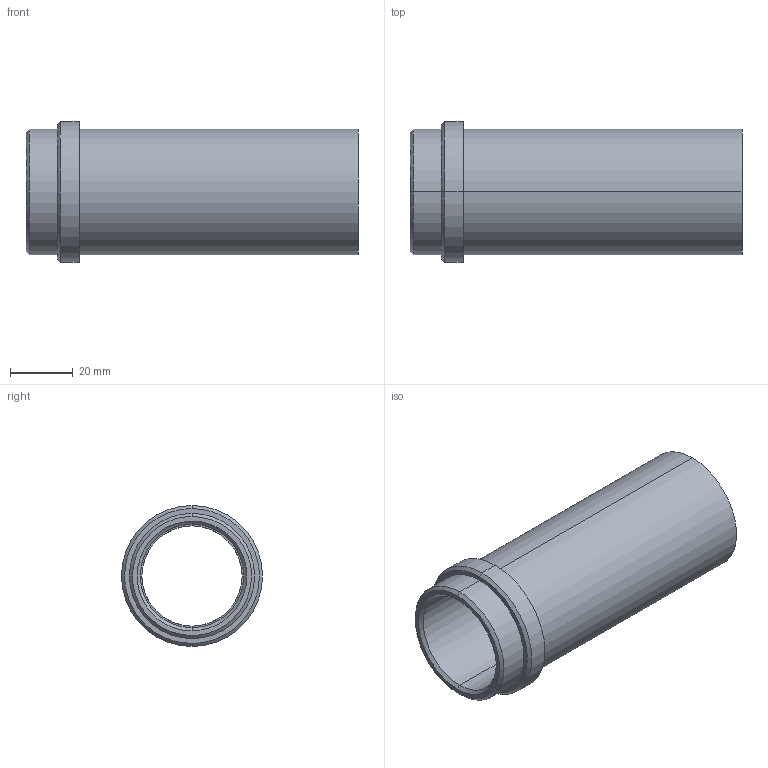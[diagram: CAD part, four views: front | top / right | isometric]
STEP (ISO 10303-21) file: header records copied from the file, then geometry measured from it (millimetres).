
FILE_DESCRIPTION(('CATIA V5 STEP Exchange'),'2;1');
FILE_NAME('C:\Users\Utente\Desktop\IO LAVORO\3D X SITO CF\X SITO\PLASTICA\358\358-32x106.stp','2021-04-09T13:13:18+00:00',('none'),('none'),'CATIA Version 5 Release 20 GA (IN-10)','CATIA V5 STEP AP203','none');
FILE_SCHEMA(('CONFIG_CONTROL_DESIGN'));
Length unit declared in the file: millimetre
Products named in the file (1): 358-32X106
Bounding box: 106 x 45 x 45 mm (x, y, z)
Volume: 47872.7 mm3; surface area: 25487.9 mm2
Topology: 1 solids, 1 shells, 23 faces, 74 edges, 56 vertices
Faces by surface type: cylinder 10, cone 6, plane 5, torus 2
Entity records: 1066 total; most frequent: CARTESIAN_POINT 378, ORIENTED_EDGE 148, DIRECTION 104, EDGE_CURVE 74, AXIS2_PLACEMENT_3D 66, VERTEX_POINT 56, CIRCLE 42, EDGE_LOOP 28
